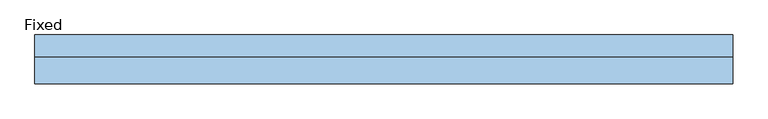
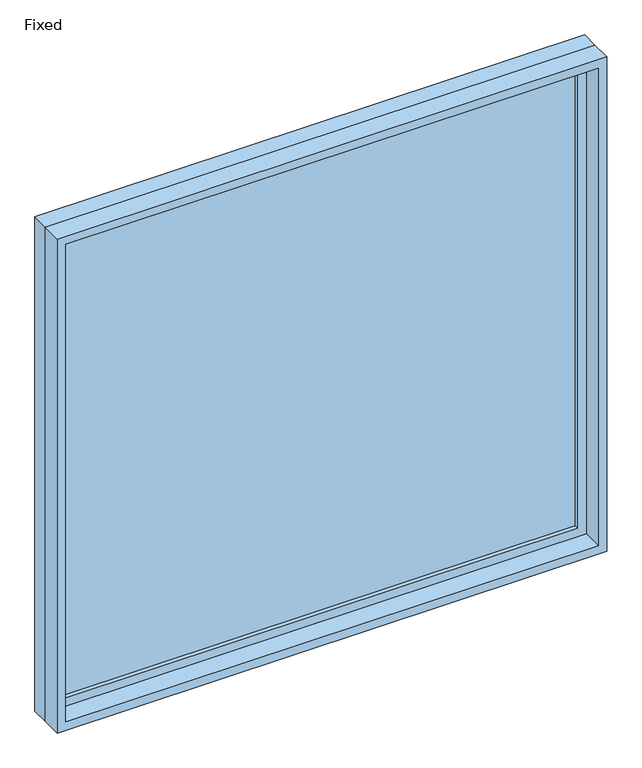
"""IFC4 building model written with IfcOpenShell, lengths in millimetres: window geometry, Fixed : öndeki pencere."""

import ifcopenshell
import ifcopenshell.guid

model = None  # the IFC model being written
_history = None  # IfcOwnerHistory: only IFC2X3 demands one
_inside = {}  # id of a spatial element -> (the spatial element, [elements in it])
_under = {}  # id of a project, library or spatial element -> (it, [spatial elements below it])
_declared = {}  # id of a project -> (the project, [libraries it declares])
_typed = {}  # id of a type object -> (the type object, [elements of that type])
_made_of = {}  # id of a material, layer set ... -> (it, [elements and type objects made of it])


def new_model(schema):
    """Start an empty IFC model of exactly this schema.

    Asked for "IFC4X3", IfcOpenShell would pick the latest addendum, in which some entities
    have other attributes; the version numbers below select the first issue.
    IFC2X3 requires an IfcOwnerHistory on every rooted entity: one is made here for all.
    """
    global model, _history
    if schema == "IFC4X3":
        model = ifcopenshell.file(schema_version=(4, 3, 0, 0))
    else:
        model = ifcopenshell.file(schema=schema)
    _inside.clear()
    _under.clear()
    _declared.clear()
    _typed.clear()
    _made_of.clear()
    _history = None
    if model.schema == "IFC2X3":
        org = make("IfcOrganization", Name="unknown")
        user = make(
            "IfcPersonAndOrganization",
            ThePerson=make("IfcPerson", FamilyName="unknown"),
            TheOrganization=org,
        )
        app = make(
            "IfcApplication",
            ApplicationDeveloper=org,
            Version="unknown",
            ApplicationFullName="unknown",
            ApplicationIdentifier="unknown",
        )
        _history = make(
            "IfcOwnerHistory",
            OwningUser=user,
            OwningApplication=app,
            ChangeAction="ADDED",
            CreationDate=0,
        )
    return model


def make(cls, **values):
    """One entity of the class cls with the attributes given. An attribute that is None is left unset."""
    return model.create_entity(
        cls, **{name: value for name, value in values.items() if value is not None}
    )


def rooted(cls, **values):
    """An entity with a GlobalId (a new one), such as an element, a storey or a relation."""
    return make(cls, GlobalId=ifcopenshell.guid.new(), OwnerHistory=_history, **values)


def si_unit(unit_type, name, prefix=None):
    """IfcSIUnit, for example si_unit("LENGTHUNIT", "METRE", prefix="MILLI")."""
    return make("IfcSIUnit", UnitType=unit_type, Prefix=prefix, Name=name)


def assignment(units):
    """IfcUnitAssignment: the units of a project."""
    return None if units is None else make("IfcUnitAssignment", Units=units)


def point(xyz):
    """IfcCartesianPoint."""
    return None if xyz is None else make("IfcCartesianPoint", Coordinates=xyz)


def direction(xyz):
    """IfcDirection."""
    return None if xyz is None else make("IfcDirection", DirectionRatios=xyz)


def frame(location, z_axis=None, x_axis=None):
    """IfcAxis2Placement3D, a coordinate frame: its origin and axes. An axis left out is left unset."""
    return make(
        "IfcAxis2Placement3D",
        Location=point(location),
        Axis=direction(z_axis),
        RefDirection=direction(x_axis),
    )


def origin():
    """The frame at (0, 0, 0) with its axes left unset."""
    return frame((0.0, 0.0, 0.0))


def place(relative_to, where):
    """IfcLocalPlacement: puts the frame where relative to a parent placement (None: the world)."""
    return make(
        "IfcLocalPlacement", PlacementRelTo=relative_to, RelativePlacement=where
    )


def context(
    kind, dimensions, precision=None, world=None, true_north=None, identifier=None
):
    """IfcGeometricRepresentationContext, for example the 3D "Model" context."""
    return make(
        "IfcGeometricRepresentationContext",
        ContextIdentifier=identifier,
        ContextType=kind,
        CoordinateSpaceDimension=dimensions,
        Precision=precision,
        WorldCoordinateSystem=world,
        TrueNorth=true_north,
    )


def project(units=None, contexts=None):
    """IfcProject with its units and contexts."""
    return rooted(
        "IfcProject",
        Name="project",
        RepresentationContexts=contexts,
        UnitsInContext=assignment(units),
    )


def spatial(cls, under=None, at=None, **own):
    """A site, building, storey or space (cls), placed at a placement, below another one or the project."""
    s = rooted(cls, ObjectPlacement=at, **own)
    if under is not None:
        _under.setdefault(under.id(), (under, []))[1].append(s)
    return s


def polyline(points):
    """IfcPolyline through the points."""
    return make("IfcPolyline", Points=[point(p) for p in points])


def outline(outer, holes=None, kind="AREA"):
    """IfcArbitraryClosedProfileDef: a profile drawn as a closed curve; with holes, ...WithVoids."""
    if holes is None:
        return make("IfcArbitraryClosedProfileDef", ProfileType=kind, OuterCurve=outer)
    return make(
        "IfcArbitraryProfileDefWithVoids",
        ProfileType=kind,
        OuterCurve=outer,
        InnerCurves=holes,
    )


def extrude(swept, where, along, depth):
    """IfcExtrudedAreaSolid: the profile swept, set in the frame where, extruded along a direction by depth."""
    return make(
        "IfcExtrudedAreaSolid",
        SweptArea=swept,
        Position=where,
        ExtrudedDirection=direction(along),
        Depth=depth,
    )


def shape(context_of_items, identifier, shape_type, items):
    """IfcShapeRepresentation: the items that make up one representation, for example the "Body"."""
    return make(
        "IfcShapeRepresentation",
        ContextOfItems=context_of_items,
        RepresentationIdentifier=identifier,
        RepresentationType=shape_type,
        Items=items,
    )


def source(mapping_origin, context_of_items, identifier, shape_type, items):
    """IfcRepresentationMap: a shape defined once, which mapped items show again and again."""
    return make(
        "IfcRepresentationMap",
        MappingOrigin=mapping_origin,
        MappedRepresentation=shape(context_of_items, identifier, shape_type, items),
    )


def transform(
    local_origin,
    x_axis=None,
    y_axis=None,
    z_axis=None,
    scale=None,
    scale2=None,
    scale3=None,
    uniform=True,
):
    """IfcCartesianTransformationOperator3D, or its non-uniform kind. x_axis, y_axis, z_axis: its Axis1, 2, 3."""
    if uniform:
        return make(
            "IfcCartesianTransformationOperator3D",
            Axis1=direction(x_axis),
            Axis2=direction(y_axis),
            LocalOrigin=point(local_origin),
            Scale=scale,
            Axis3=direction(z_axis),
        )
    return make(
        "IfcCartesianTransformationOperator3DnonUniform",
        Axis1=direction(x_axis),
        Axis2=direction(y_axis),
        LocalOrigin=point(local_origin),
        Scale=scale,
        Axis3=direction(z_axis),
        Scale2=scale2,
        Scale3=scale3,
    )


def mapped(mapping_source, mapping_target):
    """IfcMappedItem: shows the shape of a source again, moved by a transform."""
    return make(
        "IfcMappedItem", MappingSource=mapping_source, MappingTarget=mapping_target
    )


def made_of(thing, what):
    """Note that an element or type object is made of a material, layer set ...; save() writes the relation."""
    if what is not None:
        _made_of.setdefault(what.id(), (what, []))[1].append(thing)
    return thing


def element(
    cls,
    number,
    at=None,
    inside=None,
    cuts=None,
    type_object=None,
    material=None,
    context=None,
    identifier="Body",
    shape_type=None,
    held_by="IfcProductDefinitionShape",
    body=None,
    shapes=None,
    **own,
):
    """One element of the class cls, such as IfcWall. Its Tag is "e" and its number.

    at: its placement. inside: the storey or other place that contains it. cuts: it is an
    opening in that element (IfcRelVoidsElement). A single representation is given by context,
    identifier, shape_type and body (its items); several are given by shapes. held_by: the class
    of the entity that holds the representations. save() writes the other relations.
    """
    e = rooted(cls, Tag="e%d" % number, ObjectPlacement=at, **own)
    if body is not None:
        shapes = [shape(context, identifier, shape_type, body)]
    if shapes is not None:
        e.Representation = make(held_by, Representations=shapes)
    if inside is not None:
        _inside.setdefault(inside.id(), (inside, []))[1].append(e)
    if cuts is not None:
        rooted(
            "IfcRelVoidsElement", RelatingBuildingElement=cuts, RelatedOpeningElement=e
        )
    if type_object is not None:
        _typed.setdefault(type_object.id(), (type_object, []))[1].append(e)
    return made_of(e, material)


def aggregate(whole, parts):
    """IfcRelAggregates: a whole, such as a stair, and the parts it consists of."""
    return rooted("IfcRelAggregates", RelatingObject=whole, RelatedObjects=parts)


def save(model, path):
    """Write the relations noted so far, then the file.

    IfcRelAggregates (storeys below a building ...), IfcRelContainedInSpatialStructure (elements
    in a storey), IfcRelDefinesByType, IfcRelAssociatesMaterial and IfcRelDeclares: one each for
    every whole, place, type object, material and project.
    """
    for whole, parts in _under.values():
        aggregate(whole, parts)
    for where, things in _inside.values():
        rooted(
            "IfcRelContainedInSpatialStructure",
            RelatedElements=things,
            RelatingStructure=where,
        )
    for kind, things in _typed.values():
        rooted("IfcRelDefinesByType", RelatedObjects=things, RelatingType=kind)
    for what, things in _made_of.values():
        rooted("IfcRelAssociatesMaterial", RelatedObjects=things, RelatingMaterial=what)
    for by, libraries in _declared.values():
        rooted("IfcRelDeclares", RelatingContext=by, RelatedDefinitions=libraries)
    model.write(path)


def fixed_d05abae4(model_context):
    return source(origin(), model_context, "Body", "SweptSolid", [
        extrude(outline(polyline([(898.4, 21.425), (-974.6, 21.425), (-974.6, 34.125), (898.4, 34.125), (898.4, 21.425)])), frame((0.0, 0.0, 313.5), z_axis=(0.0, 0.0, 1.0), x_axis=(1.0, 0.0, 0.0)), (0.0, 0.0, 1.0), 1773.0),
        extrude(outline(polyline([(2130.95, -1019.05), (269.05, -1019.05), (269.05, 942.85), (2130.95, 942.85), (2130.95, -1019.05)]), holes=[polyline([(2086.5, -974.6), (2086.5, 898.4), (313.5, 898.4), (313.5, -974.6), (2086.5, -974.6)])]), frame((0.0, 5.55, 0.0), z_axis=(0.0, 1.0, 0.0), x_axis=(0.0, 0.0, 1.0)), (0.0, 0.0, 1.0), 44.45),
        extrude(outline(polyline([(2150.0, -1038.1), (250.0, -1038.1), (250.0, 961.9), (2150.0, 961.9), (2150.0, -1038.1)]), holes=[polyline([(2118.25, -1006.35), (2118.25, 930.15), (281.75, 930.15), (281.75, -1006.35), (2118.25, -1006.35)])]), frame((0.0, -70.0, 0.0), z_axis=(0.0, 1.0, 0.0), x_axis=(0.0, 0.0, 1.0)), (0.0, 0.0, 1.0), 75.55),
        extrude(outline(polyline([(2150.0, 961.9), (2150.0, -1038.1), (250.0, -1038.1), (250.0, 961.9), (2150.0, 961.9)]), holes=[polyline([(2130.95, 942.85), (269.05, 942.85), (269.05, -1019.05), (2130.95, -1019.05), (2130.95, 942.85)])]), frame((0.0, 5.55, 0.0), z_axis=(0.0, 1.0, 0.0), x_axis=(0.0, 0.0, 1.0)), (0.0, 0.0, 1.0), 64.45),
    ])


if __name__ == "__main__":
    model = new_model("IFC4")
    model_context = context("Model", 3, world=origin())
    ifc_project = project(units=[si_unit("LENGTHUNIT", "METRE", prefix="MILLI")], contexts=[model_context])
    site = spatial("IfcSite", under=ifc_project)
    building = spatial("IfcBuilding", under=site)
    placement = place(None, origin())
    fixed_shape = fixed_d05abae4(model_context)
    element("IfcWindow", 1, ObjectType="Fixed : öndeki pencere", at=placement, inside=building, context=model_context, shape_type="MappedRepresentation", body=[
        mapped(fixed_shape, transform((0.0, 0.0, 0.0), x_axis=(1.0, 0.0, 0.0), y_axis=(0.0, 1.0, 0.0), z_axis=(0.0, 0.0, 1.0))),
    ])
    save(model, "model.ifc")
